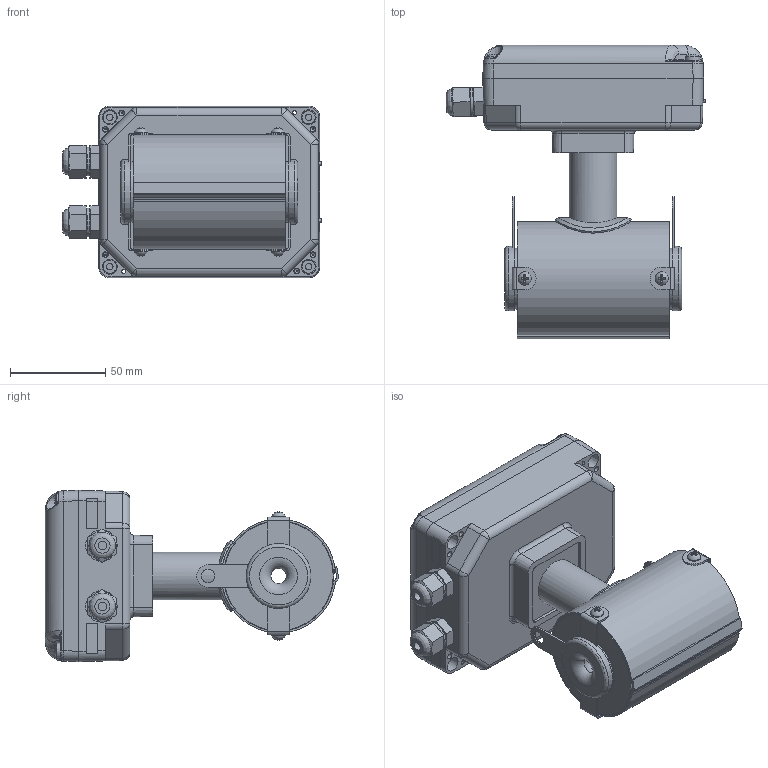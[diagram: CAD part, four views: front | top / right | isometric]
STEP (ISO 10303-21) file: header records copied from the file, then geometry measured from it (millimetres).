
FILE_DESCRIPTION(('STEP AP242'), '1');
FILE_NAME('Âçëåò ÝÐ Ëàéò Ì_DN_10_Ñåíäâè÷', '', ('UNSPECIFIED'), ('UNSPECIFIED'), 'ASCON STEP Converter 1.6', 'ASCON Math Kernel', '');
FILE_SCHEMA(('AP242_MANAGED_MODEL_BASED_3D_ENGINEERING_MIM_LF { 1 0 10303 442 1 1 4 }'));
Length unit declared in the file: millimetre
Bounding box: 136.5 x 154.19 x 90 mm (x, y, z)
Volume: 228048.3 mm3; surface area: 186463.4 mm2
Topology: 46 solids, 46 shells, 1372 faces, 3189 edges, 1918 vertices
Faces by surface type: plane 565, cylinder 400, bspline 227, cone 137, torus 31, sphere 12
Full cylindrical faces by diameter (mm): 0.8 x2, 2 x2, 2.3 x9, 3 x2, 3.242 x2, 3.422 x4, 3.6 x8, 4 x8, 4.5 x4, 5 x4, 5.5 x8, 6 x4, 7 x17, 8 x6, 9.5 x1, 12 x6, 12.2 x2, 12.5 x2, 14.7 x2, 15 x2, 16 x2, 16.5 x2, 17 x1, 18 x3, 19 x1, 21 x5, 22 x2, 25 x1, 30 x1, 32 x6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
Entity records: 105079 total; most frequent: CARTESIAN_POINT 66585, ORIENTED_EDGE 5630, DIRECTION 4689, EDGE_CURVE 2815, VERTEX_POINT 1909, EDGE_LOOP 1856, AXIS2_PLACEMENT_3D 1720, COLOUR_RGB 1418
